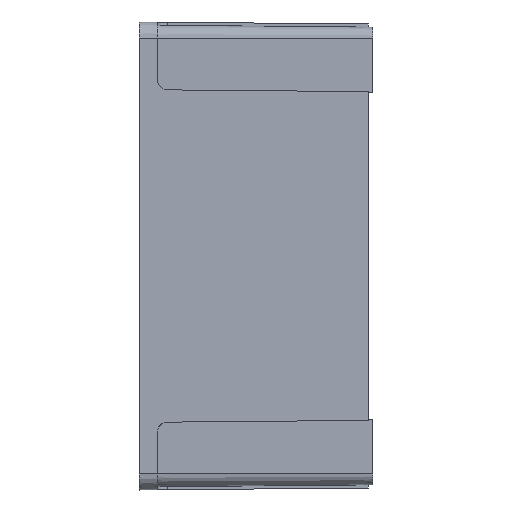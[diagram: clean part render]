
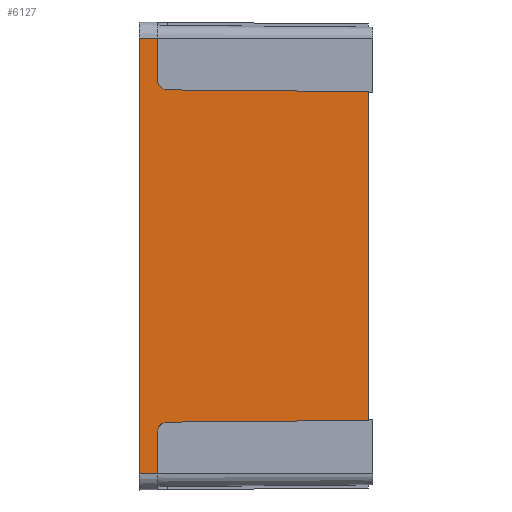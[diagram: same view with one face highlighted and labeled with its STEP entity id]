
A CAD part, left-side view. The second image highlights one B-rep face of the part: STEP entity #6127.
In plain terms, the highlighted planar face has unit normal (-1, -0.009, 0).
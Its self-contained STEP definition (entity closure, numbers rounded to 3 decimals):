
#408 = DIRECTION ( 'NONE',  ( -0.009, 1., 0. ) ) ;
#409 = VECTOR ( 'NONE', #408, 1000. ) ;
#410 = CARTESIAN_POINT ( 'NONE',  ( -50.05, 0., 46.55 ) ) ;
#411 = LINE ( 'NONE', #410, #409 ) ;
#552 = CARTESIAN_POINT ( 'NONE',  ( -50.05, 0., -46.55 ) ) ;
#569 = CARTESIAN_POINT ( 'NONE',  ( -50.015, -4., -46.55 ) ) ;
#602 = CARTESIAN_POINT ( 'NONE',  ( -49.622, -49., -35.157 ) ) ;
#603 = DIRECTION ( 'NONE',  ( 0., 0., 1. ) ) ;
#604 = VECTOR ( 'NONE', #603, 1000. ) ;
#605 = CARTESIAN_POINT ( 'NONE',  ( -49.622, -49., -46.55 ) ) ;
#606 = LINE ( 'NONE', #605, #604 ) ;
#611 = CARTESIAN_POINT ( 'NONE',  ( -49.998, -5.983, -35.533 ) ) ;
#612 =( BOUNDED_CURVE ( )  B_SPLINE_CURVE ( 3, ( #696, #695, #694, #693 ),
 .UNSPECIFIED., .F., .T. ) 
 B_SPLINE_CURVE_WITH_KNOTS ( ( 4, 4 ),
 ( 3.142, 4.704 ),
 .UNSPECIFIED. ) 
 CURVE ( )  GEOMETRIC_REPRESENTATION_ITEM ( )  RATIONAL_B_SPLINE_CURVE ( ( 1., 0.807, 0.807, 1. ) ) 
 REPRESENTATION_ITEM ( '' )  );
#613 = CARTESIAN_POINT ( 'NONE',  ( -50.015, -4., 37.533 ) ) ;
#614 =( BOUNDED_CURVE ( )  B_SPLINE_CURVE ( 3, ( #726, #633, #632, #631 ),
 .UNSPECIFIED., .F., .T. ) 
 B_SPLINE_CURVE_WITH_KNOTS ( ( 4, 4 ),
 ( 4.721, 6.283 ),
 .UNSPECIFIED. ) 
 CURVE ( )  GEOMETRIC_REPRESENTATION_ITEM ( )  RATIONAL_B_SPLINE_CURVE ( ( 1., 0.807, 0.807, 1. ) ) 
 REPRESENTATION_ITEM ( '' )  );
#625 = CARTESIAN_POINT ( 'NONE',  ( -50.015, -4., -37.533 ) ) ;
#626 = DIRECTION ( 'NONE',  ( 0., 0., 1. ) ) ;
#627 = VECTOR ( 'NONE', #626, 1000. ) ;
#628 = CARTESIAN_POINT ( 'NONE',  ( -50.015, -4., -46.55 ) ) ;
#629 = LINE ( 'NONE', #628, #627 ) ;
#631 = CARTESIAN_POINT ( 'NONE',  ( -50.015, -4., 37.533 ) ) ;
#632 = CARTESIAN_POINT ( 'NONE',  ( -50.015, -4., 36.369 ) ) ;
#633 = CARTESIAN_POINT ( 'NONE',  ( -50.008, -4.819, 35.543 ) ) ;
#641 = DIRECTION ( 'NONE',  ( 0., 0., 1. ) ) ;
#642 = VECTOR ( 'NONE', #641, 1000. ) ;
#643 = CARTESIAN_POINT ( 'NONE',  ( -50.05, 0., -46.55 ) ) ;
#644 = LINE ( 'NONE', #643, #642 ) ;
#673 = DIRECTION ( 'NONE',  ( 0., 0., 1. ) ) ;
#674 = VECTOR ( 'NONE', #673, 1000. ) ;
#675 = CARTESIAN_POINT ( 'NONE',  ( -50.015, -4., -46.55 ) ) ;
#676 = LINE ( 'NONE', #675, #674 ) ;
#689 = CARTESIAN_POINT ( 'NONE',  ( -49.622, -49., 35.157 ) ) ;
#693 = CARTESIAN_POINT ( 'NONE',  ( -49.998, -5.983, -35.533 ) ) ;
#694 = CARTESIAN_POINT ( 'NONE',  ( -50.008, -4.819, -35.543 ) ) ;
#695 = CARTESIAN_POINT ( 'NONE',  ( -50.015, -4., -36.369 ) ) ;
#696 = CARTESIAN_POINT ( 'NONE',  ( -50.015, -4., -37.533 ) ) ;
#707 = DIRECTION ( 'NONE',  ( 0.009, -1., -0.009 ) ) ;
#708 = VECTOR ( 'NONE', #707, 1000. ) ;
#709 = CARTESIAN_POINT ( 'NONE',  ( -50.044, -0.717, 35.579 ) ) ;
#710 = LINE ( 'NONE', #709, #708 ) ;
#726 = CARTESIAN_POINT ( 'NONE',  ( -49.998, -5.983, 35.533 ) ) ;
#727 = CARTESIAN_POINT ( 'NONE',  ( -49.998, -5.983, 35.533 ) ) ;
#730 = DIRECTION ( 'NONE',  ( -0.009, 1., -0.009 ) ) ;
#731 = VECTOR ( 'NONE', #730, 1000. ) ;
#732 = CARTESIAN_POINT ( 'NONE',  ( -50.051, 0.096, -35.586 ) ) ;
#733 = LINE ( 'NONE', #732, #731 ) ;
#771 = DIRECTION ( 'NONE',  ( -1., -0.009, 0. ) ) ;
#828 = DIRECTION ( 'NONE',  ( -0.009, 1., 0. ) ) ;
#829 = VECTOR ( 'NONE', #828, 1000. ) ;
#830 = CARTESIAN_POINT ( 'NONE',  ( -50.05, 0., -46.55 ) ) ;
#831 = LINE ( 'NONE', #830, #829 ) ;
#836 = PLANE ( 'NONE',  #884 ) ;
#838 = CARTESIAN_POINT ( 'NONE',  ( -50.05, 0., -46.55 ) ) ;
#865 = CARTESIAN_POINT ( 'NONE',  ( -50.015, -4., 46.55 ) ) ;
#867 = CARTESIAN_POINT ( 'NONE',  ( -50.05, 0., 46.55 ) ) ;
#883 = FACE_OUTER_BOUND ( 'NONE', #6128, .T. ) ;
#884 = AXIS2_PLACEMENT_3D ( 'NONE', #838, #771, #889 ) ;
#889 = DIRECTION ( 'NONE',  ( 0.009, -1., 0. ) ) ;
#5990 = EDGE_CURVE ( 'NONE', #6152, #6153, #411, .T. ) ;
#5994 = VERTEX_POINT ( 'NONE', #552 ) ;
#5995 = VERTEX_POINT ( 'NONE', #569 ) ;
#6005 = ORIENTED_EDGE ( 'NONE', *, *, #6073, .T. ) ;
#6048 = VERTEX_POINT ( 'NONE', #689 ) ;
#6050 = EDGE_CURVE ( 'NONE', #6051, #6048, #710, .T. ) ;
#6051 = VERTEX_POINT ( 'NONE', #727 ) ;
#6052 = ORIENTED_EDGE ( 'NONE', *, *, #6053, .T. ) ;
#6053 = EDGE_CURVE ( 'NONE', #6051, #6054, #614, .T. ) ;
#6054 = VERTEX_POINT ( 'NONE', #613 ) ;
#6055 = ORIENTED_EDGE ( 'NONE', *, *, #6056, .T. ) ;
#6056 = EDGE_CURVE ( 'NONE', #6054, #6152, #676, .T. ) ;
#6057 = ORIENTED_EDGE ( 'NONE', *, *, #5990, .T. ) ;
#6058 = ORIENTED_EDGE ( 'NONE', *, *, #6059, .F. ) ;
#6059 = EDGE_CURVE ( 'NONE', #5994, #6153, #644, .T. ) ;
#6060 = ORIENTED_EDGE ( 'NONE', *, *, #6161, .F. ) ;
#6061 = ORIENTED_EDGE ( 'NONE', *, *, #6062, .T. ) ;
#6062 = EDGE_CURVE ( 'NONE', #5995, #6063, #629, .T. ) ;
#6063 = VERTEX_POINT ( 'NONE', #625 ) ;
#6064 = ORIENTED_EDGE ( 'NONE', *, *, #6065, .T. ) ;
#6065 = EDGE_CURVE ( 'NONE', #6063, #6066, #612, .T. ) ;
#6066 = VERTEX_POINT ( 'NONE', #611 ) ;
#6067 = ORIENTED_EDGE ( 'NONE', *, *, #6068, .F. ) ;
#6068 = EDGE_CURVE ( 'NONE', #6074, #6066, #733, .T. ) ;
#6073 = EDGE_CURVE ( 'NONE', #6074, #6048, #606, .T. ) ;
#6074 = VERTEX_POINT ( 'NONE', #602 ) ;
#6127 = ADVANCED_FACE ( 'NONE', ( #883 ), #836, .T. ) ;
#6128 = EDGE_LOOP ( 'NONE', ( #6129, #6052, #6055, #6057, #6058, #6060, #6061, #6064, #6067, #6005 ) ) ;
#6129 = ORIENTED_EDGE ( 'NONE', *, *, #6050, .F. ) ;
#6152 = VERTEX_POINT ( 'NONE', #865 ) ;
#6153 = VERTEX_POINT ( 'NONE', #867 ) ;
#6161 = EDGE_CURVE ( 'NONE', #5995, #5994, #831, .T. ) ;
